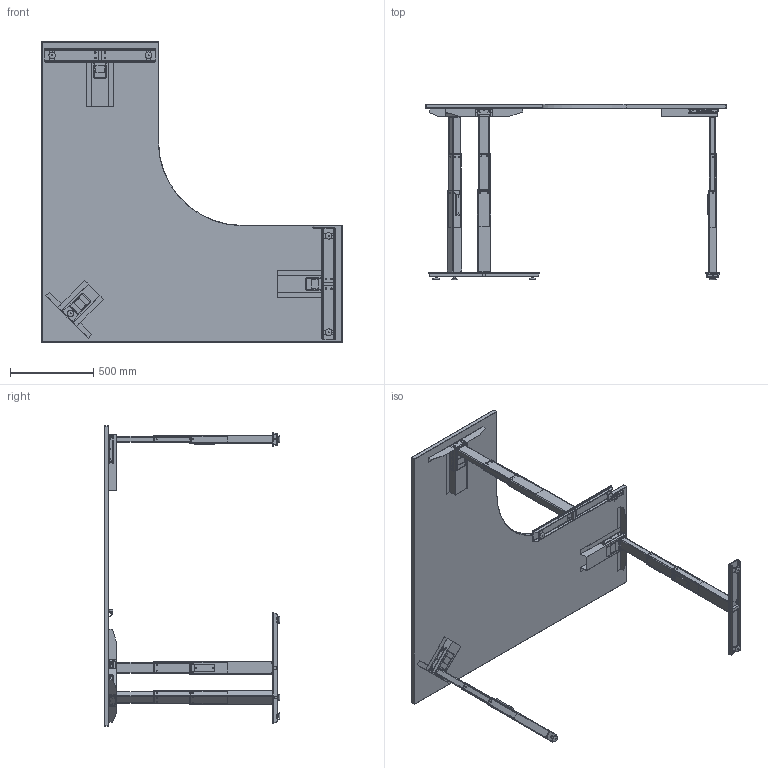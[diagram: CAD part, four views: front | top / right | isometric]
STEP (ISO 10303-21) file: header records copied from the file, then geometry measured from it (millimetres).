
FILE_DESCRIPTION(/* description */ ('','CAx-IF Rec.Pracs.---Representation and Presentation of Product Manufacturing Information (PMI)---4.0---2014-10-13'),/* implementation_level */ '2;1');
FILE_NAME(/* name */ 'BLACK1800 standing.step',/* time_stamp */ '2025-03-05T11:20:45+13:00',/* author */ (''),/* organization */ (''),/* preprocessor_version */ 'ST-DEVELOPER v20',/* originating_system */ 'Autodesk Translation Framework v13.20.0.188',/* authorisation */ '');
FILE_SCHEMA (('AP242_MANAGED_MODEL_BASED_3D_ENGINEERING_MIM_LF { 1 0 10303 442 1 1 4 }'));
Products named in the file (28): BLACK; DPF1C_DISPLAY_BRACKET; HAW LEG Long; DL6_BIFMA_WITH_BRACKET_ASM; Metalon Foot; MetalonAdjFoot; MetalonAdjFoot_1; HAW LEG Long_1; Component12; Component13; DL6_BIFMA_WITH_BRACKET_ASM_1; DL6NC_MP; STANDART_MOTORHUS_DL6_BIFMA1; DL6NC_BIFMA_OP_NEW; Metalon Foot_1; MetalonAdjFoot_2; MetalonAdjFoot_3; MetalonAdjFoot_4; HAW LEG Short v8; Component12_1; Component13_1; DL6_BIFMA_WITH_BRACKET_ASM_2; DL6NC_MP_1; STANDART_MOTORHUS_DL6_BIFMA1_1; DL6NC_BIFMA_OP_NEW_1; HAW middle leg v3; MetalonAdjFoot v8; MetalonAdjFoot_5
Assembly tree (35 placements, depth 5):
  BLACK
    DPF1C_DISPLAY_BRACKET
    HAW LEG Long
      Component12
      Component13
      DL6_BIFMA_WITH_BRACKET_ASM
        DL6NC_MP
        STANDART_MOTORHUS_DL6_BIFMA1
        DL6NC_BIFMA_OP_NEW
      Metalon Foot
        MetalonAdjFoot
          MetalonAdjFoot_4
        MetalonAdjFoot_1
          MetalonAdjFoot_4
    HAW LEG Long_1
      Component12
      Component13
      DL6_BIFMA_WITH_BRACKET_ASM_1
        DL6NC_MP
        STANDART_MOTORHUS_DL6_BIFMA1
        DL6NC_BIFMA_OP_NEW
      Metalon Foot_1
        MetalonAdjFoot_2
          MetalonAdjFoot_4
        MetalonAdjFoot_3
          MetalonAdjFoot_4
    HAW LEG Short v8
      Component12_1
      Component13_1
      DL6_BIFMA_WITH_BRACKET_ASM_2
        DL6NC_MP_1
        STANDART_MOTORHUS_DL6_BIFMA1_1
        DL6NC_BIFMA_OP_NEW_1
      HAW middle leg v3
        MetalonAdjFoot v8
          MetalonAdjFoot_5
Bounding box: 1800 x 1050 x 1800 mm (x, y, z)
Volume: 69024337.5 mm3; surface area: 6529674.6 mm2
Topology: 36 solids, 37 shells, 4351 faces, 11358 edges, 7199 vertices
Faces by surface type: plane 2289, cylinder 1490, torus 235, bspline 190, sphere 133, cone 14
Full cylindrical faces by diameter (mm): 0.4 x1, 1 x2, 4.6 x6, 5 x30, 5.3 x36, 5.5 x12, 6.8 x6, 7 x6, 7.7 x4, 8 x29, 10 x4, 15 x1
Entity records: 116811 total; most frequent: CARTESIAN_POINT 38125, ORIENTED_EDGE 16430, DIRECTION 16381, EDGE_CURVE 8215, AXIS2_PLACEMENT_3D 5754, VERTEX_POINT 5228, LINE 4873, VECTOR 4873
